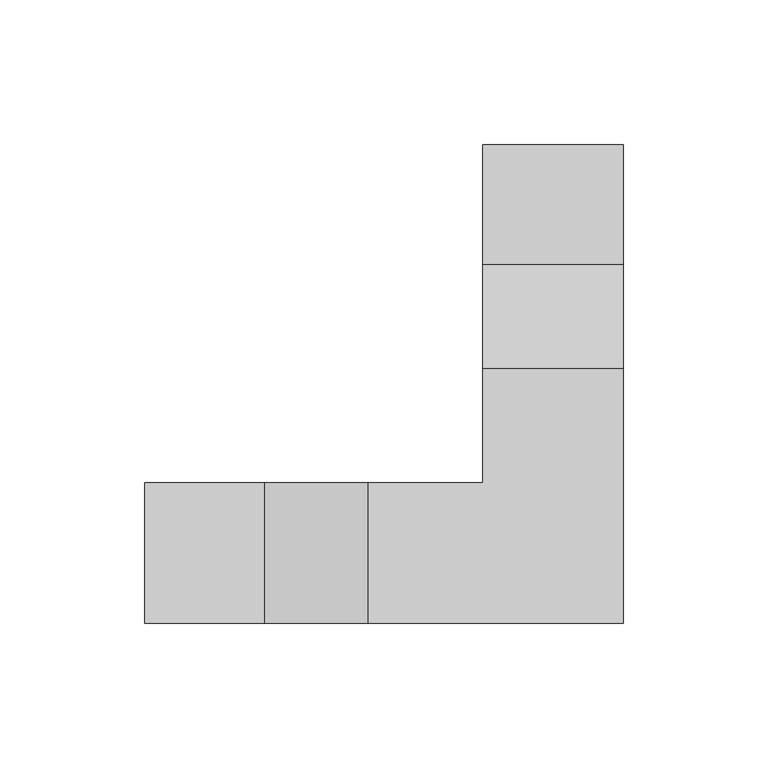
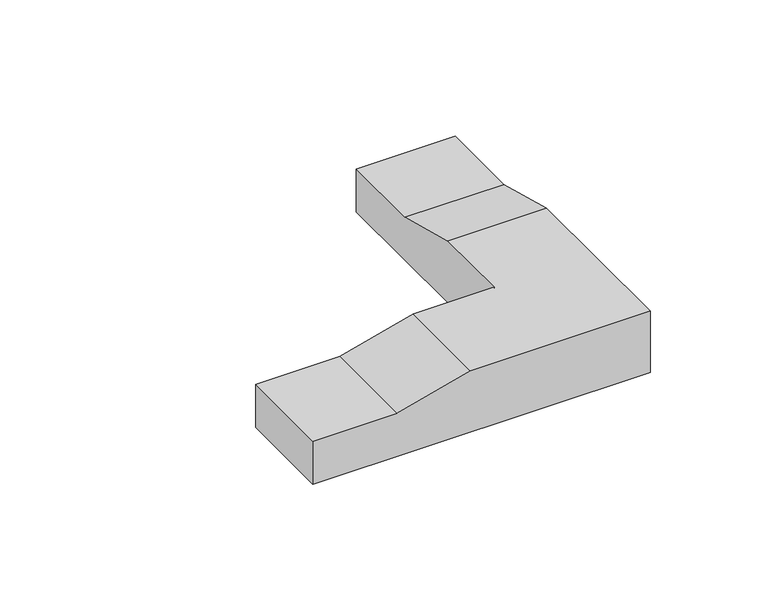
"""IFC4 building model written with IfcOpenShell, lengths in millimetres: proxy geometry, Elbow-2400_Series-Wiremold-Flat : Radiused Fog White."""

from ifc_helpers import new_model, si_unit, origin, place, context, project, spatial, faceted_brep, source, transform, mapped, element, save


def electrical_fixtures_c74d62cf(model_context):
    return source(origin(), model_context, "Body", "Brep", [
        faceted_brep([(24.209375, 140.900025, 22.225), (-24.209375, 140.900025, 22.225), (-24.209375, 99.743025, 22.225), (24.209375, 99.743025, 22.225), (-99.743025, 24.209375, 22.225), (-140.900025, 24.209375, 22.225), (-140.900025, -24.209375, 22.225), (-99.743025, -24.209375, 22.225), (-24.209375, 140.900025, 0.0), (24.209375, 140.900025, 0.0), (24.209375, -24.209375, 0.0), (-140.900025, -24.209375, 0.0), (-140.900025, 24.209375, 0.0), (-24.209375, 24.209375, 0.0), (-24.209375, 24.209375, 31.75), (-24.209375, 63.827025, 31.75), (24.209375, 63.827025, 31.75), (24.209375, -24.209375, 31.75), (-63.827025, 24.209375, 31.75), (-63.827025, -24.209375, 31.75)], [[[0, 1, 2, 3]], [[4, 5, 6, 7]], [[8, 9, 10, 11, 12, 13]], [[1, 0, 9, 8]], [[2, 1, 8, 13, 14, 15]], [[0, 3, 16, 17, 10, 9]], [[5, 4, 18, 14, 13, 12]], [[6, 5, 12, 11]], [[7, 6, 11, 10, 17, 19]], [[16, 3, 2, 15]], [[15, 14, 18, 19, 17, 16]], [[18, 4, 7, 19]]]),
    ])


if __name__ == "__main__":
    model = new_model("IFC4")
    model_context = context("Model", 3, world=origin())
    ifc_project = project(units=[si_unit("LENGTHUNIT", "METRE", prefix="MILLI")], contexts=[model_context])
    site = spatial("IfcSite", under=ifc_project)
    building = spatial("IfcBuilding", under=site)
    placement = place(None, origin())
    electrical_fixtures_shape = electrical_fixtures_c74d62cf(model_context)
    element("IfcBuildingElementProxy", 1, Name="Elbow-2400_Series-Wiremold-Flat : Radiused Fog White", ObjectType="Elbow-2400_Series-Wiremold-Flat : Radiused Fog White", at=placement, inside=building, context=model_context, shape_type="MappedRepresentation", body=[
        mapped(electrical_fixtures_shape, transform((0.0, 0.0, 0.0), x_axis=(1.0, 0.0, 0.0), y_axis=(0.0, 1.0, 0.0), z_axis=(0.0, 0.0, 1.0))),
    ])
    save(model, "model.ifc")
